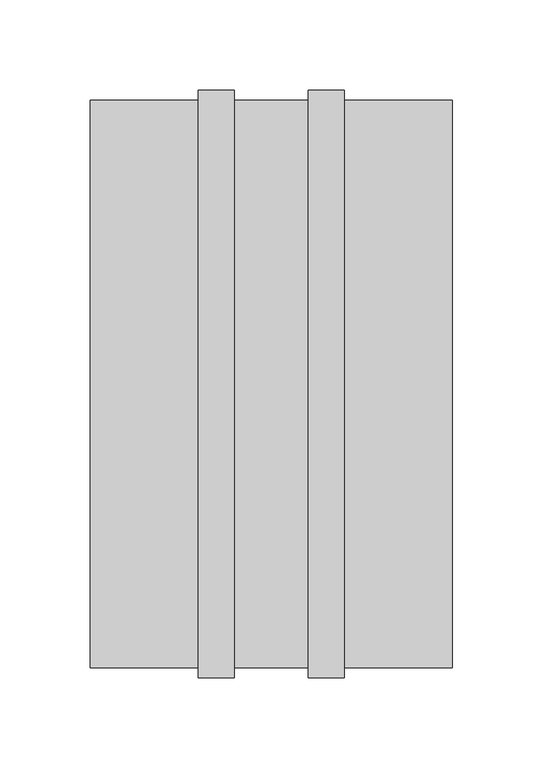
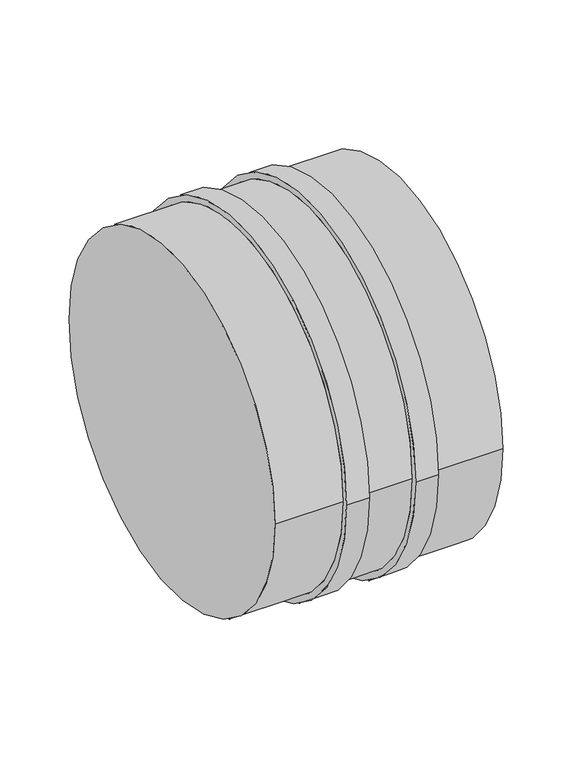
"""IFC4 building model written with IfcOpenShell, lengths in millimetres: pipe fitting geometry, NLRS_52_PIF_UN_PE dubbele kraagbus_geb : DN200-300 / ø200-315."""

from ifc_helpers import new_model, si_unit, frame, origin, place, context, project, spatial, circle_curve, source, transform, mapped, element, save
from ifc_brep_helpers import plane_surface, cylinder_surface, advanced_brep


def pipe_fitting_21b6d9ae(model_context):
    return source(origin(), model_context, "Body", "AdvancedBrep", [
        advanced_brep(
        [(-20.5, -163.0, 0.0), (-20.5, 163.0, 0.0), (-20.5, 157.5, 0.0), (-20.5, -157.5, 0.0), (-40.5, -163.0, 0.0), (-40.5, 163.0, 0.0), (-40.5, -157.5, 0.0), (-40.5, 157.5, 0.0), (100.5, -157.5, 0.0), (100.5, 157.5, 0.0), (-100.5, -157.5, 0.0), (-100.5, 157.5, 0.0), (20.5, 157.5, 0.0), (20.5, -157.5, 0.0), (40.5, -157.5, 0.0), (40.5, 157.5, 0.0), (40.5, -163.0, 0.0), (40.5, 163.0, 0.0), (20.5, -163.0, 0.0), (20.5, 163.0, 0.0)],
        [
            (0, 1, circle_curve(frame((-20.5, 0.0, 0.0), z_axis=(1.0, 0.0, 0.0), x_axis=(0.0, 1.0, 0.0)), 163.0)),
            (1, 0, circle_curve(frame((-20.5, 0.0, 0.0), z_axis=(1.0, 0.0, 0.0), x_axis=(0.0, 1.0, 0.0)), 163.0)),
            (2, 3, circle_curve(frame((-20.5, 0.0, 0.0), z_axis=(-1.0, 0.0, 0.0), x_axis=(0.0, 1.0, 0.0)), 157.5)),
            (3, 2, circle_curve(frame((-20.5, 0.0, 0.0), z_axis=(-1.0, 0.0, 0.0), x_axis=(0.0, 1.0, 0.0)), 157.5)),
            (4, 5, circle_curve(frame((-40.5, 0.0, 0.0), z_axis=(-1.0, 0.0, 0.0), x_axis=(0.0, 1.0, 0.0)), 163.0)),
            (5, 4, circle_curve(frame((-40.5, 0.0, 0.0), z_axis=(-1.0, 0.0, 0.0), x_axis=(0.0, 1.0, 0.0)), 163.0)),
            (6, 7, circle_curve(frame((-40.5, 0.0, 0.0), z_axis=(1.0, 0.0, 0.0), x_axis=(0.0, 1.0, 0.0)), 157.5)),
            (7, 6, circle_curve(frame((-40.5, 0.0, 0.0), z_axis=(1.0, 0.0, 0.0), x_axis=(0.0, 1.0, 0.0)), 157.5)),
            (0, 4),
            (5, 1),
            (8, 9, circle_curve(frame((100.5, 0.0, 0.0), z_axis=(1.0, 0.0, 0.0), x_axis=(0.0, 1.0, 0.0)), 157.5)),
            (9, 8, circle_curve(frame((100.5, 0.0, 0.0), z_axis=(1.0, 0.0, 0.0), x_axis=(0.0, 1.0, 0.0)), 157.5)),
            (10, 11, circle_curve(frame((-100.5, 0.0, 0.0), z_axis=(-1.0, 0.0, 0.0), x_axis=(0.0, 1.0, 0.0)), 157.5)),
            (11, 10, circle_curve(frame((-100.5, 0.0, 0.0), z_axis=(-1.0, 0.0, 0.0), x_axis=(0.0, 1.0, 0.0)), 157.5)),
            (2, 12),
            (12, 13, circle_curve(frame((20.5, 0.0, 0.0), z_axis=(-1.0, 0.0, 0.0), x_axis=(0.0, 1.0, 0.0)), 157.5)),
            (13, 3),
            (8, 14),
            (14, 15, circle_curve(frame((40.5, 0.0, 0.0), z_axis=(1.0, 0.0, 0.0), x_axis=(0.0, 1.0, 0.0)), 157.5)),
            (15, 9),
            (11, 7),
            (6, 10),
            (13, 12, circle_curve(frame((20.5, 0.0, 0.0), z_axis=(-1.0, 0.0, 0.0), x_axis=(0.0, 1.0, 0.0)), 157.5)),
            (15, 14, circle_curve(frame((40.5, 0.0, 0.0), z_axis=(1.0, 0.0, 0.0), x_axis=(0.0, 1.0, 0.0)), 157.5)),
            (16, 17, circle_curve(frame((40.5, 0.0, 0.0), z_axis=(1.0, 0.0, 0.0), x_axis=(0.0, 1.0, 0.0)), 163.0)),
            (17, 16, circle_curve(frame((40.5, 0.0, 0.0), z_axis=(1.0, 0.0, 0.0), x_axis=(0.0, 1.0, 0.0)), 163.0)),
            (18, 19, circle_curve(frame((20.5, 0.0, 0.0), z_axis=(-1.0, 0.0, 0.0), x_axis=(0.0, 1.0, 0.0)), 163.0)),
            (19, 18, circle_curve(frame((20.5, 0.0, 0.0), z_axis=(-1.0, 0.0, 0.0), x_axis=(0.0, 1.0, 0.0)), 163.0)),
            (16, 18),
            (19, 17),
        ],
        [
            plane_surface(frame((-20.5, 163.0, 0.0), z_axis=(1.0, 0.0, 0.0), x_axis=(0.0, 0.0, 1.0))),
            plane_surface(frame((-40.5, 163.0, 0.0), z_axis=(-1.0, 0.0, 0.0), x_axis=(0.0, 0.0, -1.0))),
            cylinder_surface(frame((-40.5, 0.0, 0.0), z_axis=(1.0, 0.0, 0.0), x_axis=(0.0, 1.0, 0.0)), 163.0),
            plane_surface(frame((100.5, 157.5, 0.0), z_axis=(1.0, 0.0, 0.0), x_axis=(0.0, 0.0, 1.0))),
            plane_surface(frame((-100.5, 157.5, 0.0), z_axis=(-1.0, 0.0, 0.0), x_axis=(0.0, 0.0, -1.0))),
            cylinder_surface(frame((-100.5, 0.0, 0.0), z_axis=(1.0, 0.0, 0.0), x_axis=(0.0, 1.0, 0.0)), 157.5),
            plane_surface(frame((40.5, 163.0, 0.0), z_axis=(1.0, 0.0, 0.0), x_axis=(0.0, 0.0, 1.0))),
            plane_surface(frame((20.5, 163.0, 0.0), z_axis=(-1.0, 0.0, 0.0), x_axis=(0.0, 0.0, -1.0))),
            cylinder_surface(frame((20.5, 0.0, 0.0), z_axis=(1.0, 0.0, 0.0), x_axis=(0.0, 1.0, 0.0)), 163.0),
        ],
        [
            (0, [[1, 2], [3, 4]]),
            (1, [[5, 6], [7, 8]]),
            (2, [[-1, 9, -6, 10]]),
            (2, [[-2, -10, -5, -9]]),
            (3, [[11, 12]]),
            (4, [[13, 14]]),
            (5, [[-3, 15, 16, 17]]),
            (5, [[-11, 18, 19, 20]]),
            (5, [[-14, 21, -7, 22]]),
            (5, [[-4, -17, 23, -15]]),
            (5, [[-12, -20, 24, -18]]),
            (5, [[-13, -22, -8, -21]]),
            (6, [[25, 26], [-19, -24]]),
            (7, [[27, 28], [-16, -23]]),
            (8, [[-25, 29, -28, 30]]),
            (8, [[-26, -30, -27, -29]]),
        ],
    ),
    ])


if __name__ == "__main__":
    model = new_model("IFC4")
    model_context = context("Model", 3, world=origin())
    ifc_project = project(units=[si_unit("LENGTHUNIT", "METRE", prefix="MILLI")], contexts=[model_context])
    site = spatial("IfcSite", under=ifc_project)
    building = spatial("IfcBuilding", under=site)
    placement = place(None, origin())
    pipe_fitting_shape = pipe_fitting_21b6d9ae(model_context)
    element("IfcPipeFitting", 1, ObjectType="NLRS_52_PIF_UN_PE dubbele kraagbus_geb : DN200-300 / ø200-315", at=placement, inside=building, context=model_context, shape_type="MappedRepresentation", body=[
        mapped(pipe_fitting_shape, transform((0.0, 0.0, 0.0), x_axis=(1.0, 0.0, 0.0), y_axis=(0.0, 1.0, 0.0), z_axis=(0.0, 0.0, 1.0))),
    ])
    save(model, "model.ifc")
